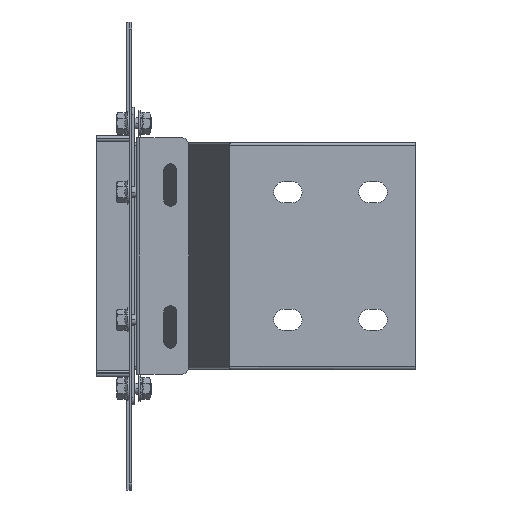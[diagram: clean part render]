
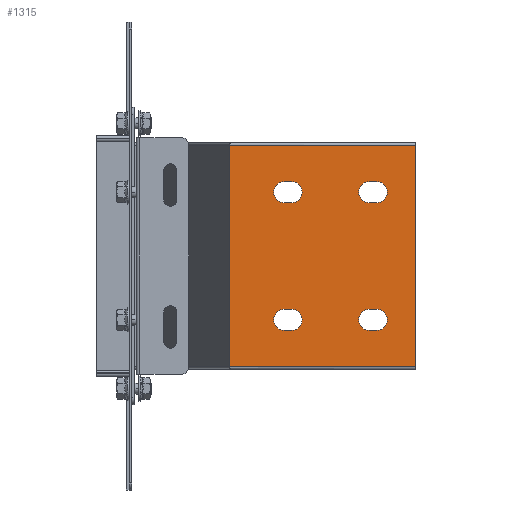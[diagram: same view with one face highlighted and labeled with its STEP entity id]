
A CAD part, front view. The second image highlights one B-rep face of the part: STEP entity #1315.
In plain terms, the highlighted planar face has unit normal (0, -1, 0).
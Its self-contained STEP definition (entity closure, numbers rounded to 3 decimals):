
#1143=AXIS2_PLACEMENT_3D('Plane Axis2P3D',#1140,#1141,#1142) ;
#1181=AXIS2_PLACEMENT_3D('Circle Axis2P3D',#1179,#1180,$) ;
#1197=AXIS2_PLACEMENT_3D('Circle Axis2P3D',#1195,#1196,$) ;
#1215=AXIS2_PLACEMENT_3D('Circle Axis2P3D',#1213,#1214,$) ;
#1231=AXIS2_PLACEMENT_3D('Circle Axis2P3D',#1229,#1230,$) ;
#1249=AXIS2_PLACEMENT_3D('Circle Axis2P3D',#1247,#1248,$) ;
#1265=AXIS2_PLACEMENT_3D('Circle Axis2P3D',#1263,#1264,$) ;
#1292=AXIS2_PLACEMENT_3D('Circle Axis2P3D',#1290,#1291,$) ;
#1306=AXIS2_PLACEMENT_3D('Circle Axis2P3D',#1304,#1305,$) ;
#1140=CARTESIAN_POINT('Axis2P3D Location',(200.,-151.75,-78.25)) ;
#1145=CARTESIAN_POINT('Line Origine',(134.417,-151.75,-78.25)) ;
#1149=CARTESIAN_POINT('Vertex',(200.,-151.75,-78.25)) ;
#1151=CARTESIAN_POINT('Vertex',(68.835,-151.75,-78.25)) ;
#1154=CARTESIAN_POINT('Line Origine',(200.,-151.75,0.)) ;
#1158=CARTESIAN_POINT('Vertex',(200.,-151.75,78.25)) ;
#1161=CARTESIAN_POINT('Line Origine',(134.417,-151.75,78.25)) ;
#1165=CARTESIAN_POINT('Vertex',(68.835,-151.75,78.25)) ;
#1168=CARTESIAN_POINT('Line Origine',(68.835,-151.75,0.)) ;
#1179=CARTESIAN_POINT('Axis2P3D Location',(112.5,-151.75,45.)) ;
#1183=CARTESIAN_POINT('Vertex',(112.5,-151.75,37.5)) ;
#1185=CARTESIAN_POINT('Vertex',(112.5,-151.75,52.5)) ;
#1188=CARTESIAN_POINT('Line Origine',(110.,-151.75,37.5)) ;
#1192=CARTESIAN_POINT('Vertex',(107.5,-151.75,37.5)) ;
#1195=CARTESIAN_POINT('Axis2P3D Location',(107.5,-151.75,45.)) ;
#1199=CARTESIAN_POINT('Vertex',(107.5,-151.75,52.5)) ;
#1202=CARTESIAN_POINT('Line Origine',(110.,-151.75,52.5)) ;
#1213=CARTESIAN_POINT('Axis2P3D Location',(172.5,-151.75,45.)) ;
#1217=CARTESIAN_POINT('Vertex',(172.5,-151.75,37.5)) ;
#1219=CARTESIAN_POINT('Vertex',(172.5,-151.75,52.5)) ;
#1222=CARTESIAN_POINT('Line Origine',(170.,-151.75,37.5)) ;
#1226=CARTESIAN_POINT('Vertex',(167.5,-151.75,37.5)) ;
#1229=CARTESIAN_POINT('Axis2P3D Location',(167.5,-151.75,45.)) ;
#1233=CARTESIAN_POINT('Vertex',(167.5,-151.75,52.5)) ;
#1236=CARTESIAN_POINT('Line Origine',(170.,-151.75,52.5)) ;
#1247=CARTESIAN_POINT('Axis2P3D Location',(107.5,-151.75,-45.)) ;
#1251=CARTESIAN_POINT('Vertex',(107.5,-151.75,-37.5)) ;
#1253=CARTESIAN_POINT('Vertex',(107.5,-151.75,-52.5)) ;
#1256=CARTESIAN_POINT('Line Origine',(110.,-151.75,-37.5)) ;
#1260=CARTESIAN_POINT('Vertex',(112.5,-151.75,-37.5)) ;
#1263=CARTESIAN_POINT('Axis2P3D Location',(112.5,-151.75,-45.)) ;
#1267=CARTESIAN_POINT('Vertex',(112.5,-151.75,-52.5)) ;
#1270=CARTESIAN_POINT('Line Origine',(110.,-151.75,-52.5)) ;
#1281=CARTESIAN_POINT('Line Origine',(170.,-151.75,-37.5)) ;
#1285=CARTESIAN_POINT('Vertex',(172.5,-151.75,-37.5)) ;
#1287=CARTESIAN_POINT('Vertex',(167.5,-151.75,-37.5)) ;
#1290=CARTESIAN_POINT('Axis2P3D Location',(172.5,-151.75,-45.)) ;
#1294=CARTESIAN_POINT('Vertex',(172.5,-151.75,-52.5)) ;
#1297=CARTESIAN_POINT('Line Origine',(170.,-151.75,-52.5)) ;
#1301=CARTESIAN_POINT('Vertex',(167.5,-151.75,-52.5)) ;
#1304=CARTESIAN_POINT('Axis2P3D Location',(167.5,-151.75,-45.)) ;
#1141=DIRECTION('Axis2P3D Direction',(0.,-1.,0.)) ;
#1142=DIRECTION('Axis2P3D XDirection',(0.,0.,1.)) ;
#1146=DIRECTION('Vector Direction',(-1.,0.,0.)) ;
#1155=DIRECTION('Vector Direction',(0.,0.,1.)) ;
#1162=DIRECTION('Vector Direction',(-1.,0.,0.)) ;
#1169=DIRECTION('Vector Direction',(0.,0.,1.)) ;
#1180=DIRECTION('Axis2P3D Direction',(0.,-1.,0.)) ;
#1189=DIRECTION('Vector Direction',(-1.,0.,0.)) ;
#1196=DIRECTION('Axis2P3D Direction',(0.,-1.,0.)) ;
#1203=DIRECTION('Vector Direction',(1.,0.,0.)) ;
#1214=DIRECTION('Axis2P3D Direction',(0.,-1.,0.)) ;
#1223=DIRECTION('Vector Direction',(1.,0.,0.)) ;
#1230=DIRECTION('Axis2P3D Direction',(0.,-1.,0.)) ;
#1237=DIRECTION('Vector Direction',(-1.,0.,0.)) ;
#1248=DIRECTION('Axis2P3D Direction',(0.,-1.,0.)) ;
#1257=DIRECTION('Vector Direction',(-1.,0.,0.)) ;
#1264=DIRECTION('Axis2P3D Direction',(0.,-1.,0.)) ;
#1271=DIRECTION('Vector Direction',(1.,0.,0.)) ;
#1282=DIRECTION('Vector Direction',(1.,0.,0.)) ;
#1291=DIRECTION('Axis2P3D Direction',(0.,-1.,0.)) ;
#1298=DIRECTION('Vector Direction',(-1.,0.,0.)) ;
#1305=DIRECTION('Axis2P3D Direction',(0.,-1.,0.)) ;
#1147=VECTOR('Line Direction',#1146,1.) ;
#1156=VECTOR('Line Direction',#1155,1.) ;
#1163=VECTOR('Line Direction',#1162,1.) ;
#1170=VECTOR('Line Direction',#1169,1.) ;
#1190=VECTOR('Line Direction',#1189,1.) ;
#1204=VECTOR('Line Direction',#1203,1.) ;
#1224=VECTOR('Line Direction',#1223,1.) ;
#1238=VECTOR('Line Direction',#1237,1.) ;
#1258=VECTOR('Line Direction',#1257,1.) ;
#1272=VECTOR('Line Direction',#1271,1.) ;
#1283=VECTOR('Line Direction',#1282,1.) ;
#1299=VECTOR('Line Direction',#1298,1.) ;
#1174=ORIENTED_EDGE('',*,*,#1153,.F.) ;
#1175=ORIENTED_EDGE('',*,*,#1160,.F.) ;
#1176=ORIENTED_EDGE('',*,*,#1167,.T.) ;
#1177=ORIENTED_EDGE('',*,*,#1172,.F.) ;
#1208=ORIENTED_EDGE('',*,*,#1187,.F.) ;
#1209=ORIENTED_EDGE('',*,*,#1194,.F.) ;
#1210=ORIENTED_EDGE('',*,*,#1201,.F.) ;
#1211=ORIENTED_EDGE('',*,*,#1206,.F.) ;
#1242=ORIENTED_EDGE('',*,*,#1221,.F.) ;
#1243=ORIENTED_EDGE('',*,*,#1228,.F.) ;
#1244=ORIENTED_EDGE('',*,*,#1235,.F.) ;
#1245=ORIENTED_EDGE('',*,*,#1240,.F.) ;
#1276=ORIENTED_EDGE('',*,*,#1255,.F.) ;
#1277=ORIENTED_EDGE('',*,*,#1262,.F.) ;
#1278=ORIENTED_EDGE('',*,*,#1269,.F.) ;
#1279=ORIENTED_EDGE('',*,*,#1274,.F.) ;
#1310=ORIENTED_EDGE('',*,*,#1289,.F.) ;
#1311=ORIENTED_EDGE('',*,*,#1296,.F.) ;
#1312=ORIENTED_EDGE('',*,*,#1303,.F.) ;
#1313=ORIENTED_EDGE('',*,*,#1308,.F.) ;
#1212=FACE_BOUND('',#1207,.T.) ;
#1246=FACE_BOUND('',#1241,.T.) ;
#1280=FACE_BOUND('',#1275,.T.) ;
#1314=FACE_BOUND('',#1309,.T.) ;
#1315=ADVANCED_FACE('N',(#1178,#1212,#1246,#1280,#1314),#1144,.T.) ;
#1182=CIRCLE('generated circle',#1181,7.5) ;
#1198=CIRCLE('generated circle',#1197,7.5) ;
#1216=CIRCLE('generated circle',#1215,7.5) ;
#1232=CIRCLE('generated circle',#1231,7.5) ;
#1250=CIRCLE('generated circle',#1249,7.5) ;
#1266=CIRCLE('generated circle',#1265,7.5) ;
#1293=CIRCLE('generated circle',#1292,7.5) ;
#1307=CIRCLE('generated circle',#1306,7.5) ;
#1153=EDGE_CURVE('',#1150,#1152,#1148,.T.) ;
#1160=EDGE_CURVE('',#1159,#1150,#1157,.F.) ;
#1167=EDGE_CURVE('',#1159,#1166,#1164,.T.) ;
#1172=EDGE_CURVE('',#1152,#1166,#1171,.T.) ;
#1187=EDGE_CURVE('',#1184,#1186,#1182,.T.) ;
#1194=EDGE_CURVE('',#1193,#1184,#1191,.F.) ;
#1201=EDGE_CURVE('',#1200,#1193,#1198,.T.) ;
#1206=EDGE_CURVE('',#1186,#1200,#1205,.F.) ;
#1221=EDGE_CURVE('',#1218,#1220,#1216,.T.) ;
#1228=EDGE_CURVE('',#1227,#1218,#1225,.T.) ;
#1235=EDGE_CURVE('',#1234,#1227,#1232,.T.) ;
#1240=EDGE_CURVE('',#1220,#1234,#1239,.T.) ;
#1255=EDGE_CURVE('',#1252,#1254,#1250,.T.) ;
#1262=EDGE_CURVE('',#1261,#1252,#1259,.T.) ;
#1269=EDGE_CURVE('',#1268,#1261,#1266,.T.) ;
#1274=EDGE_CURVE('',#1254,#1268,#1273,.T.) ;
#1289=EDGE_CURVE('',#1286,#1288,#1284,.F.) ;
#1296=EDGE_CURVE('',#1295,#1286,#1293,.T.) ;
#1303=EDGE_CURVE('',#1302,#1295,#1300,.F.) ;
#1308=EDGE_CURVE('',#1288,#1302,#1307,.T.) ;
#1173=EDGE_LOOP('',(#1174,#1175,#1176,#1177)) ;
#1207=EDGE_LOOP('',(#1208,#1209,#1210,#1211)) ;
#1241=EDGE_LOOP('',(#1242,#1243,#1244,#1245)) ;
#1275=EDGE_LOOP('',(#1276,#1277,#1278,#1279)) ;
#1309=EDGE_LOOP('',(#1310,#1311,#1312,#1313)) ;
#1178=FACE_OUTER_BOUND('',#1173,.T.) ;
#1148=LINE('Line',#1145,#1147) ;
#1157=LINE('Line',#1154,#1156) ;
#1164=LINE('Line',#1161,#1163) ;
#1171=LINE('Line',#1168,#1170) ;
#1191=LINE('Line',#1188,#1190) ;
#1205=LINE('Line',#1202,#1204) ;
#1225=LINE('Line',#1222,#1224) ;
#1239=LINE('Line',#1236,#1238) ;
#1259=LINE('Line',#1256,#1258) ;
#1273=LINE('Line',#1270,#1272) ;
#1284=LINE('Line',#1281,#1283) ;
#1300=LINE('Line',#1297,#1299) ;
#1144=PLANE('',#1143) ;
#1150=VERTEX_POINT('',#1149) ;
#1152=VERTEX_POINT('',#1151) ;
#1159=VERTEX_POINT('',#1158) ;
#1166=VERTEX_POINT('',#1165) ;
#1184=VERTEX_POINT('',#1183) ;
#1186=VERTEX_POINT('',#1185) ;
#1193=VERTEX_POINT('',#1192) ;
#1200=VERTEX_POINT('',#1199) ;
#1218=VERTEX_POINT('',#1217) ;
#1220=VERTEX_POINT('',#1219) ;
#1227=VERTEX_POINT('',#1226) ;
#1234=VERTEX_POINT('',#1233) ;
#1252=VERTEX_POINT('',#1251) ;
#1254=VERTEX_POINT('',#1253) ;
#1261=VERTEX_POINT('',#1260) ;
#1268=VERTEX_POINT('',#1267) ;
#1286=VERTEX_POINT('',#1285) ;
#1288=VERTEX_POINT('',#1287) ;
#1295=VERTEX_POINT('',#1294) ;
#1302=VERTEX_POINT('',#1301) ;
